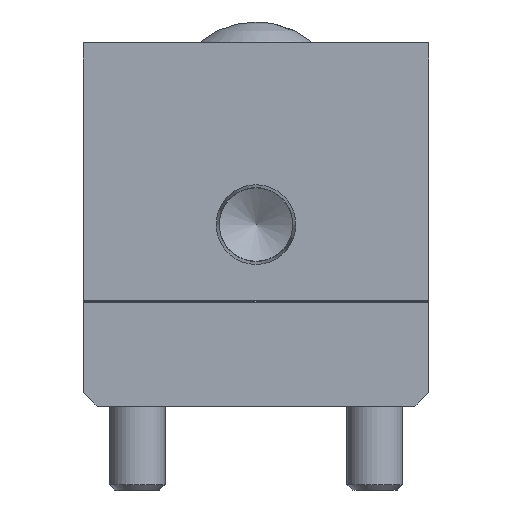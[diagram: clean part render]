
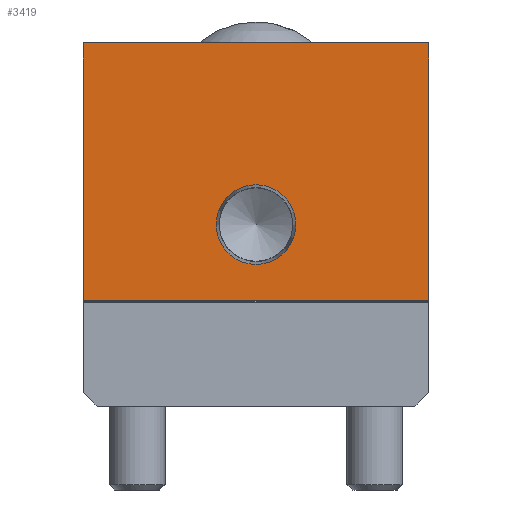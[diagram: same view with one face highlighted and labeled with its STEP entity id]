
A CAD part, front view. The second image highlights one B-rep face of the part: STEP entity #3419.
In plain terms, the highlighted planar face has unit normal (0, -1, 0).
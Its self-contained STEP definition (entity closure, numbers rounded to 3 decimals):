
#197=FACE_BOUND('',#722,.T.);
#289=CIRCLE('',#3641,5.704);
#471=FACE_OUTER_BOUND('',#721,.T.);
#721=EDGE_LOOP('',(#2452,#2453,#2454,#2455));
#722=EDGE_LOOP('',(#2456));
#1045=LINE('',#5074,#1313);
#1048=LINE('',#5079,#1316);
#1050=LINE('',#5087,#1318);
#1064=LINE('',#5123,#1332);
#1313=VECTOR('',#4100,36.9);
#1316=VECTOR('',#4105,49.5);
#1318=VECTOR('',#4113,36.9);
#1332=VECTOR('',#4157,49.5);
#1564=VERTEX_POINT('',#5071);
#1565=VERTEX_POINT('',#5073);
#1566=VERTEX_POINT('',#5077);
#1569=VERTEX_POINT('',#5085);
#1573=VERTEX_POINT('',#5099);
#1885=EDGE_CURVE('',#1565,#1564,#1045,.T.);
#1888=EDGE_CURVE('',#1564,#1566,#1048,.T.);
#1892=EDGE_CURVE('',#1569,#1566,#1050,.T.);
#1897=EDGE_CURVE('',#1573,#1573,#289,.T.);
#1910=EDGE_CURVE('',#1569,#1565,#1064,.T.);
#2452=ORIENTED_EDGE('',*,*,#1910,.T.);
#2453=ORIENTED_EDGE('',*,*,#1885,.T.);
#2454=ORIENTED_EDGE('',*,*,#1888,.T.);
#2455=ORIENTED_EDGE('',*,*,#1892,.F.);
#2456=ORIENTED_EDGE('',*,*,#1897,.T.);
#3089=PLANE('',#3674);
#3419=ADVANCED_FACE('',(#471,#197),#3089,.T.);
#3641=AXIS2_PLACEMENT_3D('',#5100,#4128,#4129);
#3674=AXIS2_PLACEMENT_3D('',#5161,#4211,#4212);
#4100=DIRECTION('',(0.,0.,1.));
#4105=DIRECTION('',(-1.,0.,0.));
#4113=DIRECTION('',(0.,0.,1.));
#4128=DIRECTION('center_axis',(0.,1.,0.));
#4129=DIRECTION('ref_axis',(1.,0.,0.));
#4157=DIRECTION('',(1.,0.,0.));
#4211=DIRECTION('center_axis',(0.,-1.,0.));
#4212=DIRECTION('ref_axis',(0.,0.,-1.));
#5071=CARTESIAN_POINT('',(24.75,0.,52.));
#5073=CARTESIAN_POINT('',(24.75,0.,15.1));
#5074=CARTESIAN_POINT('',(24.75,0.,0.));
#5077=CARTESIAN_POINT('',(-24.75,0.,52.));
#5079=CARTESIAN_POINT('',(24.75,0.,52.));
#5085=CARTESIAN_POINT('',(-24.75,0.,15.1));
#5087=CARTESIAN_POINT('',(-24.75,0.,0.));
#5099=CARTESIAN_POINT('',(5.704,0.,26.));
#5100=CARTESIAN_POINT('Origin',(0.,0.,26.));
#5123=CARTESIAN_POINT('',(24.75,0.,15.1));
#5161=CARTESIAN_POINT('Origin',(24.75,0.,0.));
